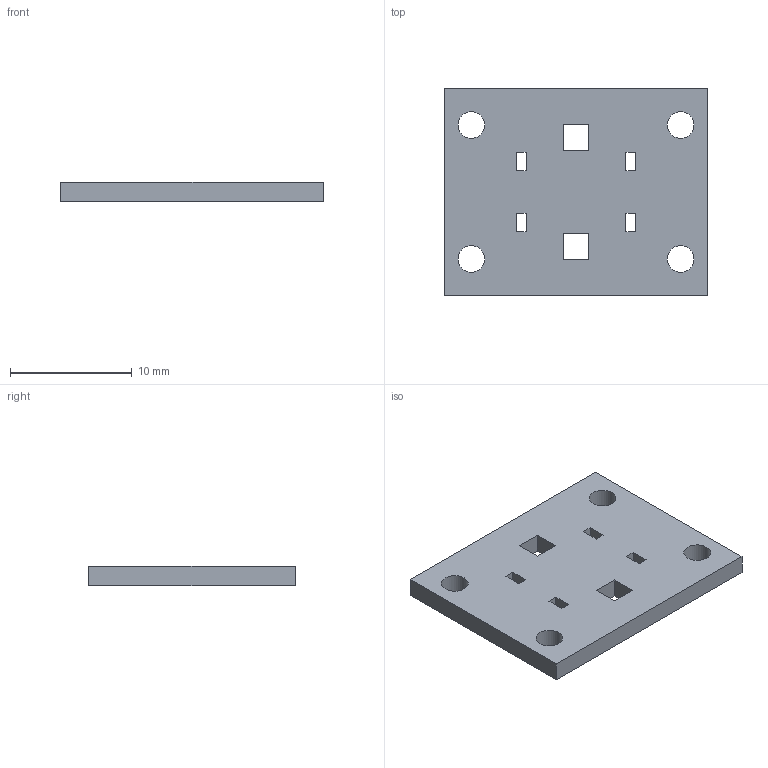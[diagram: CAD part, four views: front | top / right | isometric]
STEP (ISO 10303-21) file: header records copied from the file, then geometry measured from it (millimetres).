
FILE_DESCRIPTION(('Open CASCADE Model'),'2;1');
FILE_NAME('Open CASCADE Shape Model','2026-09-08T13:27:14',('Author'),( 'Open CASCADE'),'Open CASCADE STEP processor 7.7','Open CASCADE 7.7' ,'Unknown');
FILE_SCHEMA(('AUTOMOTIVE_DESIGN { 1 0 10303 214 1 1 1 1 }'));
Length unit declared in the file: millimetre
Products named in the file (1): Open CASCADE STEP translator 7.7 16
Bounding box: 21.6 x 17 x 1.6 mm (x, y, z)
Volume: 541.4 mm3; surface area: 900.8 mm2
Topology: 1 solids, 1 shells, 34 faces, 96 edges, 64 vertices
Faces by surface type: plane 30, cylinder 4
Full cylindrical faces by diameter (mm): 2.2 x4
Entity records: 2386 total; most frequent: CARTESIAN_POINT 387, DIRECTION 366, LINE 272, VECTOR 272, ORIENTED_EDGE 192, PCURVE 192, DEFINITIONAL_REPRESENTATION 192, EDGE_CURVE 96
